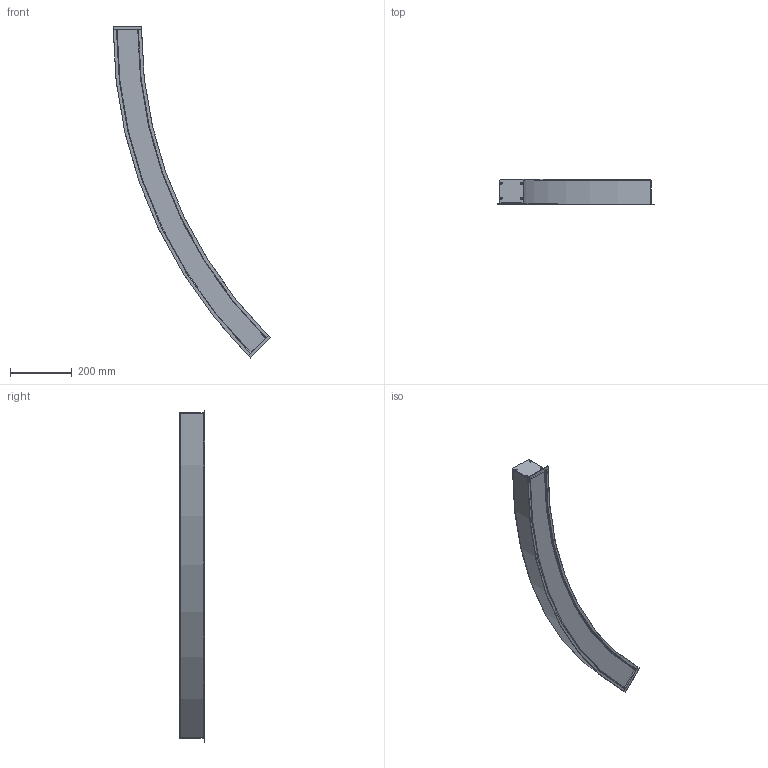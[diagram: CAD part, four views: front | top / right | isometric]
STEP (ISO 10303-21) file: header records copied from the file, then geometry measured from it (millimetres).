
FILE_DESCRIPTION (( 'STEP AP214' ), '1' );
FILE_NAME ('Swerve recessed R1450 45Deg.STEP', '2019-04-02T23:08:49', ( 'admin' ), ( 'Hewlett-Packard Company' ), 'SwSTEP 2.0', 'SolidWorks 2017', '' );
FILE_SCHEMA (( 'AUTOMOTIVE_DESIGN' ));
Length unit declared in the file: millimetre
Products named in the file (3): Swerve recessed R1450 45Deg; Swerve recessed 3D solid model_R1450 45Deg; Swerve recessed endcap
Assembly tree (3 placements, depth 2):
  Swerve recessed R1450 45Deg
    Swerve recessed 3D solid model_R1450 45Deg
    Swerve recessed endcap  x2
Bounding box: 511.71 x 81.51 x 1078.32 mm (x, y, z)
Volume: 6704830.3 mm3; surface area: 443010.2 mm2
Topology: 3 solids, 3 shells, 101 faces, 269 edges, 174 vertices
Faces by surface type: cone 31, plane 27, cylinder 24, torus 19
Entity records: 2367 total; most frequent: DIRECTION 442, CARTESIAN_POINT 384, ORIENTED_EDGE 374, EDGE_CURVE 187, AXIS2_PLACEMENT_3D 180, VERTEX_POINT 122, CIRCLE 105, VECTOR 82
